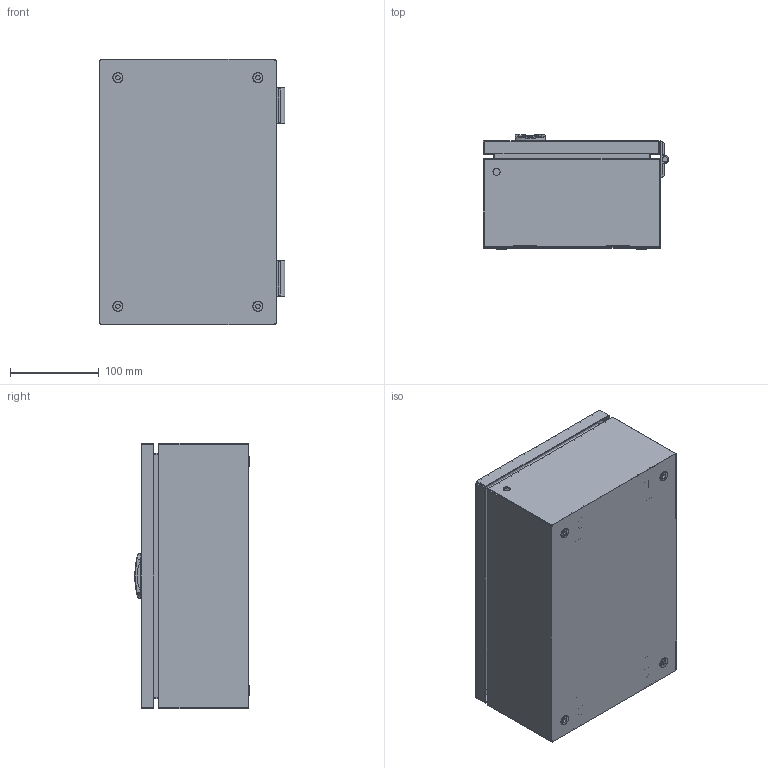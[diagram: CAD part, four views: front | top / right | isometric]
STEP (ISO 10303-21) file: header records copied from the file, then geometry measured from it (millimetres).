
FILE_DESCRIPTION(('Open CASCADE Model'),'2;1');
FILE_NAME('Open CASCADE Shape Model','2025-11-18T10:54:11',('Author'),( 'Open CASCADE'),'Open CASCADE STEP processor 7.8','Open CASCADE 7.8' ,'Unknown');
FILE_SCHEMA(('AUTOMOTIVE_DESIGN { 1 0 10303 214 1 1 1 1 }'));
Length unit declared in the file: millimetre
Products named in the file (21): Compound1; Compound2; Compound3; Solid1; Solid2; Solid3; Compound4; Compound5; Solid4; Solid5; Solid6; Compound6; Solid7; Solid8; Solid9; Solid10; Solid11; Solid12; Solid13; Solid14; Solid15
Assembly tree (35 placements, depth 5):
  Compound1
    Compound2
      Compound3
        Solid1
        Solid2  x2
        Solid3
      Compound4
        Compound5
          Solid4
          Solid3
        Solid5
        Solid6
        Compound6
          Solid7
          Solid8
          Solid9
          Solid10
      Solid11  x2
      Solid12  x4
      Solid13  x4
      Solid14  x4
    Solid15  x4
Bounding box: 209.4 x 129.04 x 300 mm (x, y, z)
Volume: 452752.6 mm3; surface area: 618808.3 mm2
Topology: 36 solids, 36 shells, 1144 faces, 2841 edges, 1800 vertices
Faces by surface type: plane 549, cylinder 226, bspline 205, cone 94, torus 53, sphere 17
Full cylindrical faces by diameter (mm): 3.2 x4, 4 x18, 4.2 x8, 5 x13, 5.15 x4, 5.5 x4, 5.8 x2, 5.857 x8, 6 x5, 7.5 x2, 8 x9, 8.4 x4, 9.6 x1, 11.5 x4, 12 x1, 12.7 x1, 15.6 x1
Entity records: 38144 total; most frequent: CARTESIAN_POINT 18683, ORIENTED_EDGE 4324, DIRECTION 3349, EDGE_CURVE 2162, VERTEX_POINT 1389, AXIS2_PLACEMENT_3D 1200, FACE_BOUND 953, EDGE_LOOP 953
